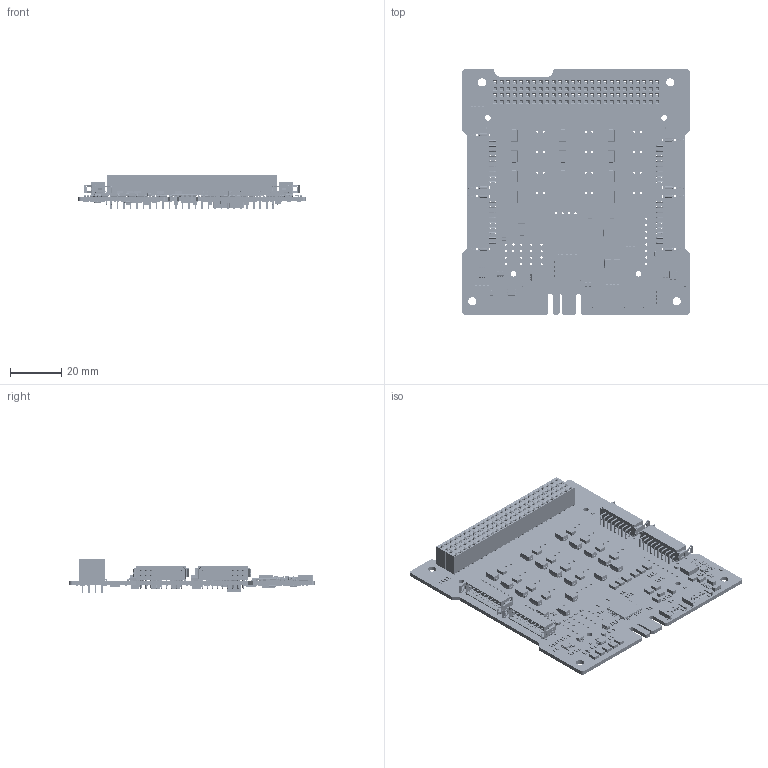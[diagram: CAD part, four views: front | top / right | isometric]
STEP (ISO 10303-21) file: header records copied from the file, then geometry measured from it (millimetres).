
FILE_DESCRIPTION((''),'2;1');
FILE_NAME('IMEPSV2_DU_V060_SW0002','2020-04-03T',('sjay'),(''),'PRO/ENGINEER BY PARAMETRIC TECHNOLOGY CORPORATION, 2015110','PRO/ENGINEER BY PARAMETRIC TECHNOLOGY CORPORATION, 2015110','');
FILE_SCHEMA(('CONFIG_CONTROL_DESIGN'));
Products named in the file (1): IMEPSV2_DU_V060_SW0002
Bounding box: 89 x 96 x 13.44 mm (x, y, z)
Volume: 20915.7 mm3; surface area: 35925.6 mm2
Topology: 1 solids, 1 shells, 18247 faces, 55517 edges, 36366 vertices
Faces by surface type: plane 11488, cylinder 5239, bspline 560, cone 516, sphere 250, torus 140, extrusion 54
Entity records: 639978 total; most frequent: CARTESIAN_POINT 132011, ORIENTED_EDGE 110470, DIRECTION 101459, EDGE_CURVE 55235, VECTOR 40881, LINE 40827, VERTEX_POINT 36366, AXIS2_PLACEMENT_3D 30289
